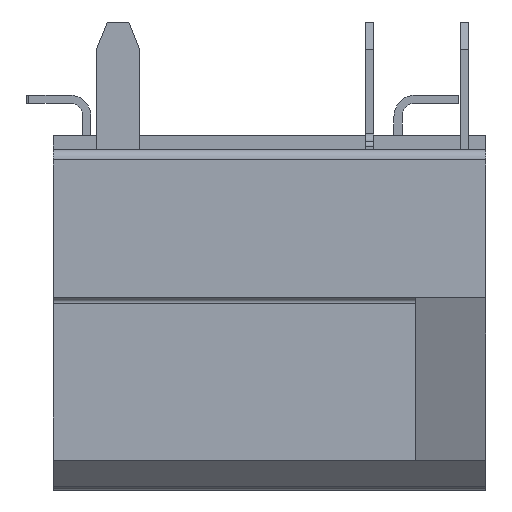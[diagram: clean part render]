
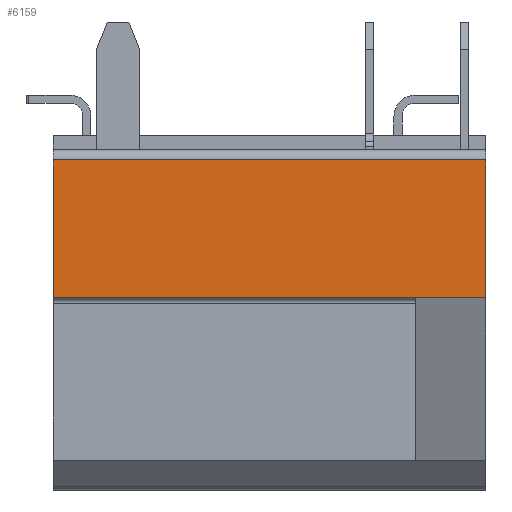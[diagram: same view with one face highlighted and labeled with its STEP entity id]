
A CAD part, left-side view. The second image highlights one B-rep face of the part: STEP entity #6159.
In plain terms, the highlighted planar face has unit normal (-1, 0, 0).
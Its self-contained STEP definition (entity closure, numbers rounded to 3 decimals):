
#4775 = CARTESIAN_POINT ( 'NONE',  ( -50.299, -7.134, -0.775 ) ) ;
#6159 = ADVANCED_FACE ( 'NONE', ( #240378 ), #218634, .T. ) ;
#6758 = CARTESIAN_POINT ( 'NONE',  ( -50.299, -8.434, 1.775 ) ) ;
#12641 = VECTOR ( 'NONE', #142562, 1000. ) ;
#17329 = EDGE_LOOP ( 'NONE', ( #267289, #162188, #89563, #228451, #60301 ) ) ;
#32363 = CARTESIAN_POINT ( 'NONE',  ( -50.299, -8.434, -0.775 ) ) ;
#33882 = VERTEX_POINT ( 'NONE', #109408 ) ;
#35035 = AXIS2_PLACEMENT_3D ( 'NONE', #104040, #127263, #172304 ) ;
#36654 = CARTESIAN_POINT ( 'NONE',  ( -50.299, -8.434, -0.775 ) ) ;
#52598 = LINE ( 'NONE', #4775, #12641 ) ;
#60301 = ORIENTED_EDGE ( 'NONE', *, *, #223004, .T. ) ;
#62027 = VECTOR ( 'NONE', #67876, 1000. ) ;
#66112 = EDGE_CURVE ( 'NONE', #96344, #247724, #125177, .T. ) ;
#66473 = DIRECTION ( 'NONE',  ( 0., 1., 0. ) ) ;
#67876 = DIRECTION ( 'NONE',  ( 0., 1., 0. ) ) ;
#82951 = VERTEX_POINT ( 'NONE', #262978 ) ;
#89563 = ORIENTED_EDGE ( 'NONE', *, *, #102078, .F. ) ;
#96344 = VERTEX_POINT ( 'NONE', #32363 ) ;
#102078 = EDGE_CURVE ( 'NONE', #96344, #33882, #218904, .T. ) ;
#104040 = CARTESIAN_POINT ( 'NONE',  ( -50.299, -8.434, -0.775 ) ) ;
#109408 = CARTESIAN_POINT ( 'NONE',  ( -50.299, -7.134, -0.775 ) ) ;
#125177 = LINE ( 'NONE', #36654, #177257 ) ;
#127263 = DIRECTION ( 'NONE',  ( -1., 0., 0. ) ) ;
#134634 = CARTESIAN_POINT ( 'NONE',  ( -50.299, -8.434, -0.775 ) ) ;
#142562 = DIRECTION ( 'NONE',  ( 0., 1., 0. ) ) ;
#162188 = ORIENTED_EDGE ( 'NONE', *, *, #168257, .F. ) ;
#165321 = LINE ( 'NONE', #197158, #233806 ) ;
#168257 = EDGE_CURVE ( 'NONE', #33882, #240139, #52598, .T. ) ;
#172304 = DIRECTION ( 'NONE',  ( 0., 0., 1. ) ) ;
#177257 = VECTOR ( 'NONE', #210867, 1000. ) ;
#197158 = CARTESIAN_POINT ( 'NONE',  ( -50.299, -0.434, -0.775 ) ) ;
#210867 = DIRECTION ( 'NONE',  ( 0., 0., 1. ) ) ;
#218634 = PLANE ( 'NONE',  #35035 ) ;
#218904 = LINE ( 'NONE', #134634, #272233 ) ;
#223004 = EDGE_CURVE ( 'NONE', #247724, #82951, #249112, .T. ) ;
#228451 = ORIENTED_EDGE ( 'NONE', *, *, #66112, .T. ) ;
#233806 = VECTOR ( 'NONE', #240604, 1000. ) ;
#240139 = VERTEX_POINT ( 'NONE', #256569 ) ;
#240378 = FACE_OUTER_BOUND ( 'NONE', #17329, .T. ) ;
#240604 = DIRECTION ( 'NONE',  ( 0., 0., 1. ) ) ;
#247724 = VERTEX_POINT ( 'NONE', #280452 ) ;
#249112 = LINE ( 'NONE', #6758, #62027 ) ;
#256569 = CARTESIAN_POINT ( 'NONE',  ( -50.299, -0.434, -0.775 ) ) ;
#260139 = EDGE_CURVE ( 'NONE', #240139, #82951, #165321, .T. ) ;
#262978 = CARTESIAN_POINT ( 'NONE',  ( -50.299, -0.434, 1.775 ) ) ;
#267289 = ORIENTED_EDGE ( 'NONE', *, *, #260139, .F. ) ;
#272233 = VECTOR ( 'NONE', #66473, 1000. ) ;
#280452 = CARTESIAN_POINT ( 'NONE',  ( -50.299, -8.434, 1.775 ) ) ;
